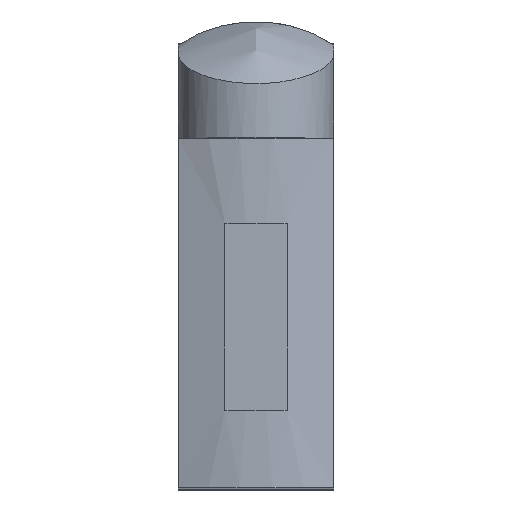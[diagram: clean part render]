
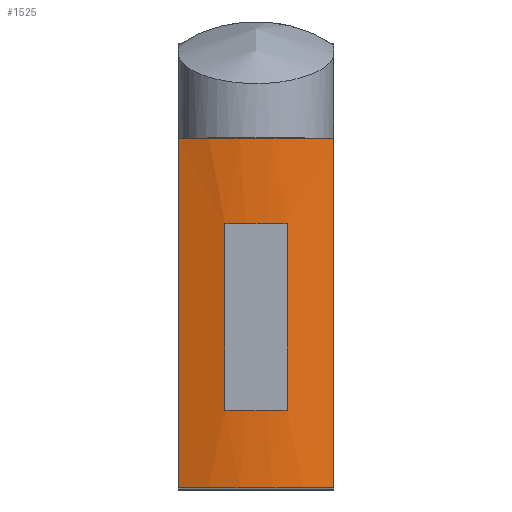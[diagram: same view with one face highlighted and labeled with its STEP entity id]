
A CAD part, top view. The second image highlights one B-rep face of the part: STEP entity #1525.
In plain terms, the highlighted cylindrical face has radius 13 mm (diameter 26 mm), a partial arc.
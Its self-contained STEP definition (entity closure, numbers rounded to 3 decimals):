
#1383 = VERTEX_POINT ( 'NONE', #4569 ) ;
#1386 = EDGE_CURVE ( 'NONE', #1387, #1383, #4567, .T. ) ;
#1387 = VERTEX_POINT ( 'NONE', #4563 ) ;
#1400 = EDGE_CURVE ( 'NONE', #1401, #1402, #4615, .T. ) ;
#1401 = VERTEX_POINT ( 'NONE', #4611 ) ;
#1402 = VERTEX_POINT ( 'NONE', #4610 ) ;
#1448 = EDGE_CURVE ( 'NONE', #1402, #1383, #4662, .T. ) ;
#1511 = ORIENTED_EDGE ( 'NONE', *, *, #1512, .T. ) ;
#1512 = EDGE_CURVE ( 'NONE', #1536, #1529, #4773, .T. ) ;
#1513 = EDGE_LOOP ( 'NONE', ( #1514, #1515, #1516, #1517 ) ) ;
#1514 = ORIENTED_EDGE ( 'NONE', *, *, #1386, .T. ) ;
#1515 = ORIENTED_EDGE ( 'NONE', *, *, #1448, .F. ) ;
#1516 = ORIENTED_EDGE ( 'NONE', *, *, #1400, .F. ) ;
#1517 = ORIENTED_EDGE ( 'NONE', *, *, #1522, .T. ) ;
#1522 = EDGE_CURVE ( 'NONE', #1401, #1387, #4763, .T. ) ;
#1525 = ADVANCED_FACE ( 'NONE', ( #4758, #4757 ), #4756, .T. ) ;
#1526 = EDGE_LOOP ( 'NONE', ( #1527, #1531, #1534, #1511 ) ) ;
#1527 = ORIENTED_EDGE ( 'NONE', *, *, #1528, .T. ) ;
#1528 = EDGE_CURVE ( 'NONE', #1529, #1530, #4751, .T. ) ;
#1529 = VERTEX_POINT ( 'NONE', #4810 ) ;
#1530 = VERTEX_POINT ( 'NONE', #4809 ) ;
#1531 = ORIENTED_EDGE ( 'NONE', *, *, #1532, .T. ) ;
#1532 = EDGE_CURVE ( 'NONE', #1530, #1533, #4808, .T. ) ;
#1533 = VERTEX_POINT ( 'NONE', #4804 ) ;
#1534 = ORIENTED_EDGE ( 'NONE', *, *, #1535, .T. ) ;
#1535 = EDGE_CURVE ( 'NONE', #1533, #1536, #4803, .T. ) ;
#1536 = VERTEX_POINT ( 'NONE', #4798 ) ;
#4563 = CARTESIAN_POINT ( 'NONE',  ( -5., 19.5, -1. ) ) ;
#4564 = DIRECTION ( 'NONE',  ( 0., -1., 0. ) ) ;
#4565 = VECTOR ( 'NONE', #4564, 1000. ) ;
#4566 = CARTESIAN_POINT ( 'NONE',  ( -5., 127.109, -1. ) ) ;
#4567 = LINE ( 'NONE', #4566, #4565 ) ;
#4569 = CARTESIAN_POINT ( 'NONE',  ( -5., -3., -1. ) ) ;
#4610 = CARTESIAN_POINT ( 'NONE',  ( 5., -3., -1. ) ) ;
#4611 = CARTESIAN_POINT ( 'NONE',  ( 5., 19.5, -1. ) ) ;
#4612 = DIRECTION ( 'NONE',  ( 0., -1., 0. ) ) ;
#4613 = VECTOR ( 'NONE', #4612, 1000. ) ;
#4614 = CARTESIAN_POINT ( 'NONE',  ( 5., 127.109, -1. ) ) ;
#4615 = LINE ( 'NONE', #4614, #4613 ) ;
#4658 = DIRECTION ( 'NONE',  ( 0., 0., 1. ) ) ;
#4659 = DIRECTION ( 'NONE',  ( 0., -1., 0. ) ) ;
#4660 = CARTESIAN_POINT ( 'NONE',  ( 0., -3., -13. ) ) ;
#4661 = AXIS2_PLACEMENT_3D ( 'NONE', #4660, #4659, #4658 ) ;
#4662 = CIRCLE ( 'NONE', #4661, 13. ) ;
#4751 = CIRCLE ( 'NONE', #4814, 13. ) ;
#4752 = DIRECTION ( 'NONE',  ( 0., 0., -1. ) ) ;
#4753 = DIRECTION ( 'NONE',  ( 0., -1., 0. ) ) ;
#4754 = CARTESIAN_POINT ( 'NONE',  ( 0., 127.109, -13. ) ) ;
#4755 = AXIS2_PLACEMENT_3D ( 'NONE', #4754, #4753, #4752 ) ;
#4756 = CYLINDRICAL_SURFACE ( 'NONE', #4755, 13. ) ;
#4757 = FACE_OUTER_BOUND ( 'NONE', #1513, .T. ) ;
#4758 = FACE_BOUND ( 'NONE', #1526, .T. ) ;
#4759 = DIRECTION ( 'NONE',  ( 0., 0., 1. ) ) ;
#4760 = DIRECTION ( 'NONE',  ( 0., -1., 0. ) ) ;
#4761 = CARTESIAN_POINT ( 'NONE',  ( 0., 19.5, -13. ) ) ;
#4762 = AXIS2_PLACEMENT_3D ( 'NONE', #4761, #4760, #4759 ) ;
#4763 = CIRCLE ( 'NONE', #4762, 13. ) ;
#4770 = DIRECTION ( 'NONE',  ( 0., 1., 0. ) ) ;
#4771 = VECTOR ( 'NONE', #4770, 1000. ) ;
#4772 = CARTESIAN_POINT ( 'NONE',  ( -2., 127.109, -0.155 ) ) ;
#4773 = LINE ( 'NONE', #4772, #4771 ) ;
#4798 = CARTESIAN_POINT ( 'NONE',  ( -2., 2., -0.155 ) ) ;
#4799 = DIRECTION ( 'NONE',  ( 1., 0., 0. ) ) ;
#4800 = DIRECTION ( 'NONE',  ( 0., -1., 0. ) ) ;
#4801 = CARTESIAN_POINT ( 'NONE',  ( 0., 2., -13. ) ) ;
#4802 = AXIS2_PLACEMENT_3D ( 'NONE', #4801, #4800, #4799 ) ;
#4803 = CIRCLE ( 'NONE', #4802, 13. ) ;
#4804 = CARTESIAN_POINT ( 'NONE',  ( 2., 2., -0.155 ) ) ;
#4805 = DIRECTION ( 'NONE',  ( 0., -1., 0. ) ) ;
#4806 = VECTOR ( 'NONE', #4805, 1000. ) ;
#4807 = CARTESIAN_POINT ( 'NONE',  ( 2., 127.109, -0.155 ) ) ;
#4808 = LINE ( 'NONE', #4807, #4806 ) ;
#4809 = CARTESIAN_POINT ( 'NONE',  ( 2., 14., -0.155 ) ) ;
#4810 = CARTESIAN_POINT ( 'NONE',  ( -2., 14., -0.155 ) ) ;
#4811 = DIRECTION ( 'NONE',  ( 0., 0., 1. ) ) ;
#4812 = DIRECTION ( 'NONE',  ( 0., 1., 0. ) ) ;
#4813 = CARTESIAN_POINT ( 'NONE',  ( 0., 14., -13. ) ) ;
#4814 = AXIS2_PLACEMENT_3D ( 'NONE', #4813, #4812, #4811 ) ;
